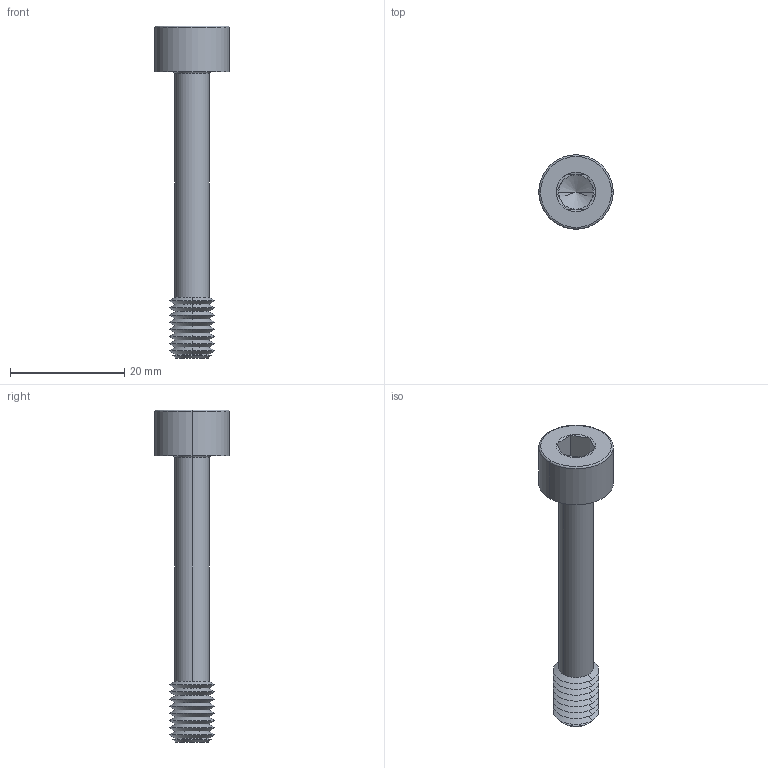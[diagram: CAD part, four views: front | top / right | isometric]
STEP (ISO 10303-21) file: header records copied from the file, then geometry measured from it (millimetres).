
FILE_DESCRIPTION (( 'STEP AP203' ), '1' );
FILE_NAME ('P0154.080-050-BL.step', '2024-06-17T11:32:35', ( '' ), ( '' ), 'SwSTEP 2.0', 'SolidWorks 2019', '' );
FILE_SCHEMA (( 'CONFIG_CONTROL_DESIGN' ));
Length unit declared in the file: millimetre
Products named in the file (1): P0154.080-050-BL
Bounding box: 13 x 13 x 58 mm (x, y, z)
Volume: 2369.1 mm3; surface area: 1906.6 mm2
Topology: 1 solids, 1 shells, 67 faces, 136 edges, 71 vertices
Faces by surface type: cone 44, plane 15, torus 4, cylinder 4
Entity records: 1787 total; most frequent: DIRECTION 332, CARTESIAN_POINT 299, ORIENTED_EDGE 268, AXIS2_PLACEMENT_3D 136, EDGE_CURVE 134, VERTEX_POINT 71, EDGE_LOOP 69, CIRCLE 68
